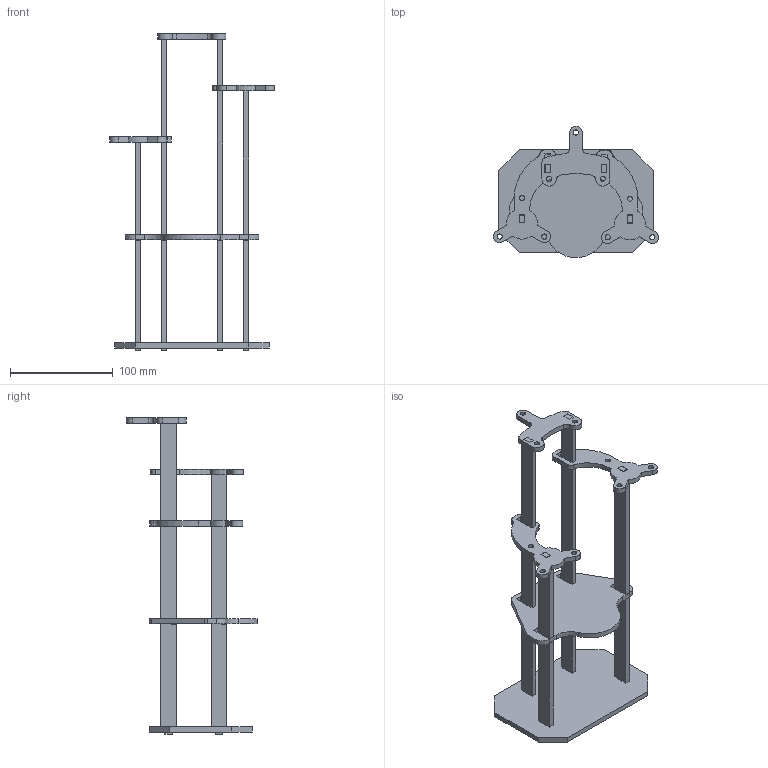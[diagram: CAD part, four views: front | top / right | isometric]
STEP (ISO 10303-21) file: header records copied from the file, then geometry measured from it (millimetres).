
FILE_DESCRIPTION(('CATIA V5 STEP Exchange'),'2;1');
FILE_NAME('E:\catia\perso\porte pots\images\petit porte pots.stp','2019-12-29T17:39:16+00:00',('none'),('none'),'CATIA Version 5 Release 21 SP 3 (IN-10)','CATIA V5 STEP AP203','none');
FILE_SCHEMA(('CONFIG_CONTROL_DESIGN'));
Length unit declared in the file: millimetre
Products named in the file (1): petit porte pots
Assembly tree (9 placements, depth 2):
  petit porte pots
    #58
    #889
    #1567
    #2245
    #2791
    #3337
    #4427  x2
    #5574
Bounding box: 160.2 x 127.26 x 307 mm (x, y, z)
Volume: 223969.1 mm3; surface area: 112503.3 mm2
Topology: 9 solids, 9 shells, 242 faces, 672 edges, 448 vertices
Faces by surface type: plane 181, cylinder 61
Entity records: 6568 total; most frequent: ORIENTED_EDGE 1146, CARTESIAN_POINT 1141, DIRECTION 945, EDGE_CURVE 573, VECTOR 485, LINE 485, VERTEX_POINT 382, AXIS2_PLACEMENT_3D 274
